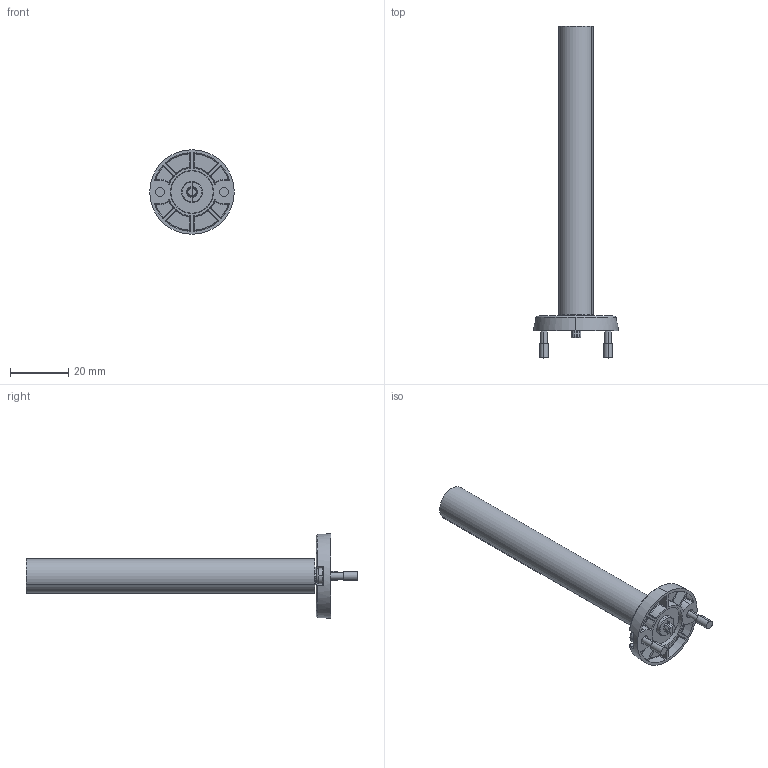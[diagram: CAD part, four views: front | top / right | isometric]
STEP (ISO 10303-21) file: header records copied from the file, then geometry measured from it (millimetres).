
FILE_DESCRIPTION((''),'2;1');
FILE_NAME('3918002564_22','2025-12-11T10:21:04',('Hartwig.Bicknese'),(''),'CREO PARAMETRIC BY PTC INC, 2022124','CREO PARAMETRIC BY PTC INC, 2022124','');
FILE_SCHEMA(('AUTOMOTIVE_DESIGN { 1 0 10303 214 1 1 1 1 }'));
Length unit declared in the file: millimetre
Products named in the file (1): 3918002564_22
Bounding box: 29 x 113.9 x 29 mm (x, y, z)
Volume: 10362.4 mm3; surface area: 8920.8 mm2
Topology: 3 solids, 3 shells, 568 faces, 1452 edges, 906 vertices
Faces by surface type: plane 208, extrusion 96, cylinder 90, bspline 56, cone 48, torus 38, sphere 32
Entity records: 31431 total; most frequent: CARTESIAN_POINT 9591, ORIENTED_EDGE 2904, DIRECTION 2264, PRESENTATION_STYLE_ASSIGNMENT 2119, STYLED_ITEM 1551, CURVE_STYLE 1548, EDGE_CURVE 1452, VERTEX_POINT 906
